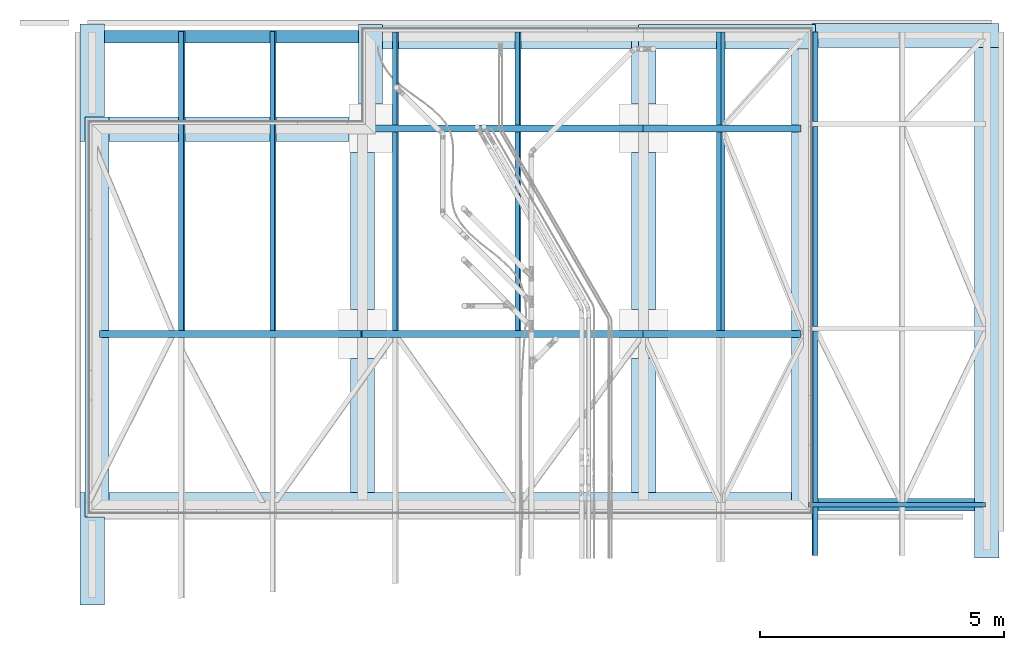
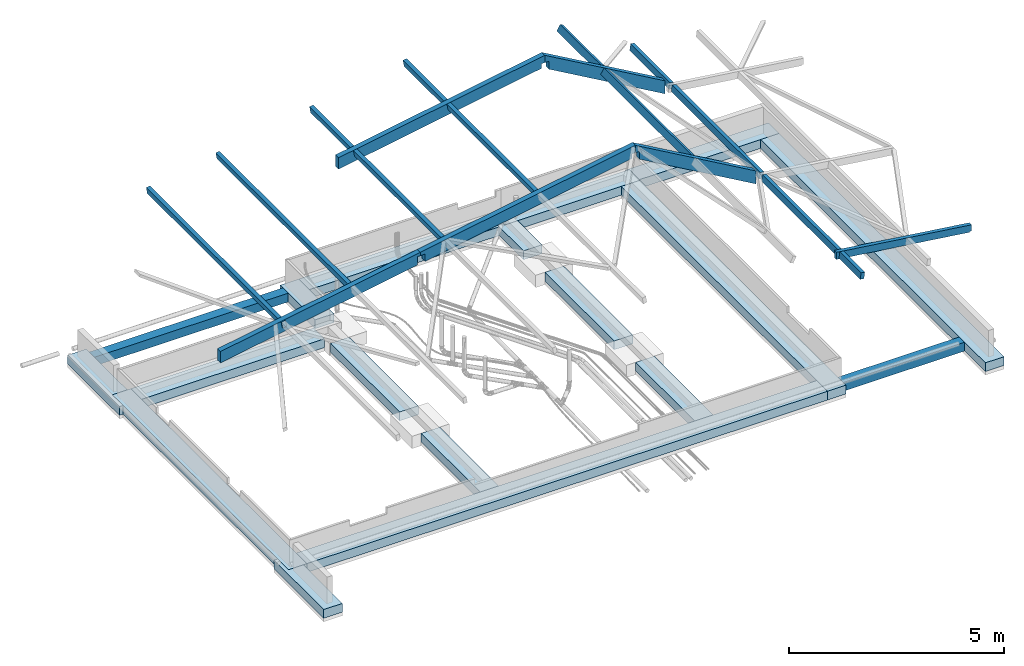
# One storey, part 1 of 18: 13 footings, 10 beams, 9 members.
"""IFC4 building model written with IfcOpenShell, lengths in centimetres."""

from ifc_helpers import new_model, entity, si_unit, converted_unit, derived_unit, direction, frame, origin, place, context, subcontext, project, spatial, indexed_curve, outline, extrude, source, transform, mapped, material, type_object, type_shapes, element, save


model = new_model("IFC4")

# Units and contexts
model_context = context("Model", 3, precision=0.001, world=origin(), true_north=direction((6.123233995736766e-17, 1.0)))
body_context = subcontext(model_context, "Body", "Model", "MODEL_VIEW")
ifc_project = project(units=[si_unit("LENGTHUNIT", "METRE", prefix="CENTI"), si_unit("AREAUNIT", "SQUARE_METRE"), converted_unit("PLANEANGLEUNIT", "DEGREE", entity("IfcPlaneAngleMeasure", 0.017453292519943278), si_unit("PLANEANGLEUNIT", "RADIAN"), dimensions=[0, 0, 0, 0, 0, 0, 0]), si_unit("VOLUMEUNIT", "CUBIC_METRE"), derived_unit("THERMALTRANSMITTANCEUNIT", [(si_unit("MASSUNIT", "GRAM", prefix="KILO"), 1), (si_unit("THERMODYNAMICTEMPERATUREUNIT", "KELVIN"), -1), (si_unit("TIMEUNIT", "SECOND"), -3)])], contexts=[model_context])

# Site, building, storey
site_placement = place(None, frame((-0.003347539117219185, 0.0, 0.0)))
site = spatial("IfcSite", under=ifc_project, at=site_placement, Name="Default", CompositionType="ELEMENT")
building_placement = place(site_placement, origin())
building = spatial("IfcBuilding", under=site, at=building_placement, CompositionType="ELEMENT")
storey_placement = place(building_placement, frame((0.0, 0.0, -30.0)))
storey = spatial("IfcBuildingStorey", under=building, at=storey_placement, Name="Fondation B.O.", CompositionType="ELEMENT", Elevation=-30.0)

# Footings
ifc_material_1 = material(Name="Béton C20/25")
footing_type_1 = type_object("IfcFootingType", Name="Semelle filante:SF 50x25 ht. 2", PredefinedType="STRIP_FOOTING")
footing_1_placement = place(storey_placement, origin())
element("IfcFooting", 1, at=footing_1_placement, inside=storey, type_object=footing_type_1, material=ifc_material_1, Name="Semelle filante:SF 50x25 ht. 2", ObjectType="Semelle filante:SF 50x25 ht. 2", PredefinedType="STRIP_FOOTING", context=body_context, shape_type="SweptSolid", body=[
    extrude(outline(indexed_curve([(-410.0000000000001, -28.099999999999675), (-360.0, -28.099999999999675), (360.00000000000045, -28.10000000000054), (410.00000000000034, -28.10000000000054), (410.00000000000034, 12.400000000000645), (410.00000000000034, 21.899999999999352), (360.00000000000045, 21.899999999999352), (-360.0, 21.90000000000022), (-409.9999999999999, 21.90000000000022), (-409.9999999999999, 12.400000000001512), (-410.0000000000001, -28.099999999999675)], self_intersect=False)), frame((-6775.486652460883, -2277.8758849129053, -25.0), z_axis=(0.0, 0.0, 1.0), x_axis=(0.0, -1.0, 0.0)), (0.0, 0.0, 1.0), 25.0),
])
footing_2_placement = place(storey_placement, origin())
element("IfcFooting", 2, at=footing_2_placement, inside=storey, type_object=footing_type_1, material=ifc_material_1, Name="Semelle filante:SF 50x25 ht. 2", ObjectType="Semelle filante:SF 50x25 ht. 2", PredefinedType="STRIP_FOOTING", context=body_context, shape_type="SweptSolid", body=[
    extrude(outline(indexed_curve([(-246.0000000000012, -24.999999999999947), (246.0000000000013, -24.999999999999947), (246.0000000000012, 25.000000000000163), (-246.0000000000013, 25.000000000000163), (-246.0000000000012, -24.999999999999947)], self_intersect=False)), frame((-6507.586652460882, -1892.875884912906, -25.0)), (0.0, 0.0, 1.0), 25.0),
])
footing_3_placement = place(storey_placement, origin())
element("IfcFooting", 3, at=footing_3_placement, inside=storey, type_object=footing_type_1, material=ifc_material_1, Name="Semelle filante:SF 50x25 ht. 2", ObjectType="Semelle filante:SF 50x25 ht. 2", PredefinedType="STRIP_FOOTING", context=body_context, shape_type="SweptSolid", body=[
    extrude(outline(indexed_curve([(-163.88888888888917, -29.888888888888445), (-155.88888888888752, -29.888888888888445), (199.1111111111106, -29.88888888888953), (199.1111111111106, -8.388888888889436), (199.1111111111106, 20.11111111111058), (164.11111111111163, 20.11111111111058), (-113.88888888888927, 20.11111111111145), (-163.88888888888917, 20.111111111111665), (-163.88888888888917, 17.611111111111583), (-163.88888888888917, -29.888888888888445)], self_intersect=False)), frame((-5468.47554134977, -1707.7647738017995, -25.0), z_axis=(0.0, 0.0, 1.0), x_axis=(-1.0, 0.0, 0.0)), (0.0, 0.0, 1.0), 25.0),
])
footing_4_placement = place(storey_placement, origin())
element("IfcFooting", 4, at=footing_4_placement, inside=storey, type_object=footing_type_1, material=ifc_material_1, Name="Semelle filante:SF 50x25 ht. 2", ObjectType="Semelle filante:SF 50x25 ht. 2", PredefinedType="STRIP_FOOTING", context=body_context, shape_type="SweptSolid", body=[
    extrude(outline(indexed_curve([(-60.857142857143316, -21.428571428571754), (-48.357142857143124, -21.428571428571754), (-23.357142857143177, -21.428571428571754), (102.14285714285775, -21.428571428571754), (102.14285714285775, 28.57142857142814), (-10.857142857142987, 28.57142857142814), (-60.857142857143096, 28.57142857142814), (-60.857142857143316, -21.428571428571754)], self_intersect=False)), frame((-6221.158081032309, -1738.7330277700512, -25.0), z_axis=(0.0, 0.0, 1.0), x_axis=(0.0, -1.0, 0.0)), (0.0, 0.0, 1.0), 25.0),
])
footing_5_placement = place(storey_placement, origin())
element("IfcFooting", 5, at=footing_5_placement, inside=storey, type_object=footing_type_1, material=ifc_material_1, Name="Semelle filante:SF 50x25 ht. 2", ObjectType="Semelle filante:SF 50x25 ht. 2", PredefinedType="STRIP_FOOTING", context=body_context, shape_type="SweptSolid", body=[
    extrude(outline(indexed_curve([(-288.5714285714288, -21.42857142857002), (-276.0714285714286, -21.42857142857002), (-251.07142857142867, -21.42857142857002), (671.4285714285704, -21.428571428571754), (671.4285714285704, 28.57142857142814), (-238.5714285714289, 28.571428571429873), (-288.5714285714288, 28.571428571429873), (-288.5714285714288, -21.42857142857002)], self_intersect=False)), frame((-5326.0152238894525, -2399.3044563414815, -25.0), z_axis=(0.0, 0.0, 1.0), x_axis=(0.0, 1.0, 0.0)), (0.0, 0.0, 1.0), 25.0),
])
footing_6_placement = place(storey_placement, origin())
element("IfcFooting", 6, at=footing_6_placement, inside=storey, type_object=footing_type_1, material=ifc_material_1, Name="Semelle filante:SF 50x25 ht. 2", ObjectType="Semelle filante:SF 50x25 ht. 2", PredefinedType="STRIP_FOOTING", context=body_context, shape_type="SweptSolid", body=[
    extrude(outline(indexed_curve([(-753.6249999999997, -37.5000000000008), (645.3750000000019, -37.49999999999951), (645.3750000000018, 12.500000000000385), (367.3750000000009, 12.500000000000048), (317.37500000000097, 12.500000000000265), (-209.12500000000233, 12.499999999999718), (-259.1250000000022, 12.4999999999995), (-753.6249999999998, 12.499999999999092), (-753.6249999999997, -37.5000000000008)], self_intersect=False)), frame((-5999.961652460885, -2650.375884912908, -25.0)), (0.0, 0.0, 1.0), 25.0),
])
footing_7_placement = place(storey_placement, origin())
element("IfcFooting", 7, at=footing_7_placement, inside=storey, type_object=footing_type_1, material=ifc_material_1, Name="Semelle filante:SF 50x25 ht. 2", ObjectType="Semelle filante:SF 50x25 ht. 2", PredefinedType="STRIP_FOOTING", context=body_context, shape_type="SweptSolid", body=[
    extrude(outline(indexed_curve([(-345.0000000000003, -26.166666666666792), (164.99999999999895, -26.16666666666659), (164.99999999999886, 2.333333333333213), (179.9999999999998, 2.3333333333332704), (179.99999999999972, 23.833333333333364), (-345.00000000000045, 23.833333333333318), (-345.0000000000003, -26.166666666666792)], self_intersect=False)), frame((-5847.58665246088, -1701.7092182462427, -25.0)), (0.0, 0.0, 1.0), 25.0),
])
footing_type_2 = type_object("IfcFootingType", Name="Semelle filante:SF 50x25 ht.", PredefinedType="STRIP_FOOTING")
footing_8_placement = place(storey_placement, origin())
element("IfcFooting", 8, at=footing_8_placement, inside=storey, type_object=footing_type_2, material=ifc_material_1, Name="Semelle filante:SF 50x25 ht.", ObjectType="Semelle filante:SF 50x25 ht.", PredefinedType="STRIP_FOOTING", context=body_context, shape_type="SweptSolid", body=[
    extrude(outline(indexed_curve([(-160.99999999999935, -25.00000000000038), (160.99999999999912, -25.00000000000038), (160.99999999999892, 24.999999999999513), (-160.99999999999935, 24.999999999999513), (-160.99999999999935, -25.00000000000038)], self_intersect=False)), frame((-6234.086652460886, -2101.875884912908, -25.0), z_axis=(0.0, 0.0, 1.0), x_axis=(0.0, 1.0, 0.0)), (0.0, 0.0, 1.0), 25.0),
    extrude(outline(indexed_curve([(-137.49999999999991, -25.00000000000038), (137.49999999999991, -25.00000000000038), (137.49999999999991, 24.999999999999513), (-137.49999999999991, 24.999999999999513), (-137.49999999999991, -25.00000000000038)], self_intersect=False)), frame((-6234.086652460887, -2500.3758849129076, -25.0), z_axis=(0.0, 0.0, 1.0), x_axis=(0.0, 1.0, 0.0)), (0.0, 0.0, 1.0), 25.0),
])
footing_9_placement = place(storey_placement, origin())
element("IfcFooting", 9, at=footing_9_placement, inside=storey, type_object=footing_type_2, material=ifc_material_1, Name="Semelle filante:SF 50x25 ht.", ObjectType="Semelle filante:SF 50x25 ht.", PredefinedType="STRIP_FOOTING", context=body_context, shape_type="SweptSolid", body=[
    extrude(outline(indexed_curve([(-137.49999999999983, -24.999999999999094), (137.5, -24.999999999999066), (137.49999999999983, 25.000000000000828), (-137.5, 25.0000000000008), (-137.49999999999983, -24.999999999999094)], self_intersect=False)), frame((-5657.586652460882, -2500.375884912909, -25.0), z_axis=(0.0, 0.0, 1.0), x_axis=(0.0, 1.0, 0.0)), (0.0, 0.0, 1.0), 25.0),
    extrude(outline(indexed_curve([(-161.00000000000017, -24.99999999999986), (161.00000000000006, -25.000000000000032), (160.99999999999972, 24.99999999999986), (-161.00000000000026, 25.000000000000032), (-161.00000000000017, -24.99999999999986)], self_intersect=False)), frame((-5657.586652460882, -2101.875884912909, -25.0), z_axis=(0.0, 0.0, 1.0), x_axis=(0.0, 1.0, 0.0)), (0.0, 0.0, 1.0), 25.0),
    extrude(outline(indexed_curve([(-88.85714285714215, -31.428571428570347), (24.142857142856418, -31.428571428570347), (24.142857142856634, 3.571428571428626), (52.642857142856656, 3.571428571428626), (52.642857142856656, 18.571428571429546), (24.14285714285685, 18.571428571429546), (-88.85714285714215, 18.571428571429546), (-88.85714285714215, -31.428571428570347)], self_intersect=False)), frame((-5664.015223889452, -1752.0187420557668, -25.0), z_axis=(0.0, 0.0, 1.0), x_axis=(0.0, 1.0, 0.0)), (0.0, 0.0, 1.0), 25.0),
])
footing_10_placement = place(storey_placement, origin())
element("IfcFooting", 10, at=footing_10_placement, inside=storey, type_object=footing_type_2, material=ifc_material_1, Name="Semelle filante:SF 50x25 ht.", ObjectType="Semelle filante:SF 50x25 ht.", PredefinedType="STRIP_FOOTING", context=body_context, shape_type="SweptSolid", body=[
    extrude(outline(indexed_curve([(-224.28571428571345, -22.142857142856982), (159.71428571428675, -22.142857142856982), (159.71428571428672, -19.6428571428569), (151.71428571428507, -19.642857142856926), (151.71428571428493, 27.857142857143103), (-174.28571428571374, 27.85714285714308), (-224.28571428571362, 27.857142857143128), (-224.28571428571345, -22.142857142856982)], self_intersect=False)), frame((-5152.872366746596, -1697.5187420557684, -25.0), z_axis=(0.0, 0.0, 1.0), x_axis=(-1.0, 0.0, 0.0)), (0.0, 0.0, 1.0), 25.0),
])
footing_11_placement = place(storey_placement, origin())
element("IfcFooting", 11, at=footing_11_placement, inside=storey, type_object=footing_type_2, material=ifc_material_1, Name="Semelle filante:SF 50x25 ht.", ObjectType="Semelle filante:SF 50x25 ht.", PredefinedType="STRIP_FOOTING", context=body_context, shape_type="SweptSolid", body=[
    extrude(outline(indexed_curve([(-385.1666666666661, -33.333333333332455), (661.3333333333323, -33.333333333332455), (661.3333333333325, 16.66666666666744), (-263.66666666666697, 16.666666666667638), (-288.66666666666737, 16.6666666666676), (-385.16666666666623, 16.66666666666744), (-385.1666666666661, -33.333333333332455)], self_intersect=False)), frame((-4961.919985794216, -2386.7092182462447, -25.0), z_axis=(0.0, 0.0, 1.0), x_axis=(0.0, 1.0, 0.0)), (0.0, 0.0, 1.0), 25.0),
])
footing_12_placement = place(storey_placement, origin())
element("IfcFooting", 12, at=footing_12_placement, inside=storey, type_object=footing_type_2, material=ifc_material_1, Name="Semelle filante:SF 50x25 ht.", ObjectType="Semelle filante:SF 50x25 ht.", PredefinedType="STRIP_FOOTING", context=body_context, shape_type="SweptSolid", body=[
    extrude(outline(indexed_curve([(-114.49999999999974, -27.375000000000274), (126.49999999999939, -27.375000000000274), (126.49999999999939, -17.875000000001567), (76.49999999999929, -17.875000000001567), (76.49999999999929, 22.62499999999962), (-75.99999999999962, 22.62499999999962), (-100.99999999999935, 22.62499999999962), (-114.49999999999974, 22.62499999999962), (-114.49999999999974, -27.375000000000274)], self_intersect=False)), frame((-6785.711652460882, -1791.3758849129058, -25.0), z_axis=(0.0, 0.0, 1.0), x_axis=(0.0, -1.0, 0.0)), (0.0, 0.0, 1.0), 25.0),
])
footing_13_placement = place(storey_placement, origin())
element("IfcFooting", 13, at=footing_13_placement, inside=storey, type_object=footing_type_2, material=ifc_material_1, Name="Semelle filante:SF 50x25 ht.", ObjectType="Semelle filante:SF 50x25 ht.", PredefinedType="STRIP_FOOTING", context=body_context, shape_type="SweptSolid", body=[
    extrude(outline(indexed_curve([(-137.33333333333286, -30.16666666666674), (43.66666666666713, -30.16666666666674), (43.66666666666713, 10.33333333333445), (93.66666666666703, 10.33333333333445), (93.66666666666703, 19.833333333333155), (-137.33333333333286, 19.833333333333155), (-137.33333333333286, -30.16666666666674)], self_intersect=False)), frame((-6793.25331912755, -2731.542551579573, -25.0), z_axis=(0.0, 0.0, 1.0), x_axis=(0.0, 1.0, 0.0)), (0.0, 0.0, 1.0), 25.0),
])

# Beams
beam_type_1 = type_object("IfcBeamType", Name="Poutre rectangulaire - Béton:25x25 ht.", PredefinedType="BEAM", material=ifc_material_1)
shared_shape_1 = source(origin(), body_context, "Body", "SweptSolid", [
    extrude(outline(indexed_curve([(-12.5, -12.499999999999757), (12.499999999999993, -12.499999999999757), (12.499999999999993, 12.50000000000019), (-12.5, 12.50000000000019), (-12.5, -12.499999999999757)], self_intersect=False)), frame((-5304.586652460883, -2662.8758849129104, -42.50000000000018), z_axis=(1.0, 0.0, 0.0), x_axis=(0.0, 0.0, -1.0)), (0.0, 0.0, 1.0), 325.99999999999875),
])
type_shapes(beam_type_1, [shared_shape_1])
beam_1_placement = place(storey_placement, frame((0.0, 0.0, 30.0)))
element("IfcBeam", 14, at=beam_1_placement, inside=storey, type_object=beam_type_1, material=ifc_material_1, Name="Poutre rectangulaire - Béton:25x25 ht.", ObjectType="Poutre rectangulaire - Béton:25x25 ht.", PredefinedType="BEAM", context=body_context, shape_type="MappedRepresentation", body=[
    mapped(shared_shape_1, transform((0.0, 0.0, 0.0), scale=1.0)),
])
beam_type_2 = type_object("IfcBeamType", Name="Poutre rectangulaire - Béton:25x25 ht.", PredefinedType="BEAM", material=ifc_material_1)
shared_shape_2 = source(origin(), body_context, "Body", "SweptSolid", [
    extrude(outline(indexed_curve([(-12.5, -12.50000000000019), (12.499999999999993, -12.499999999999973), (12.5, 12.499999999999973), (-12.5, 12.50000000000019), (-12.5, -12.50000000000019)], self_intersect=False)), frame((-6763.086652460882, -1702.8758849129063, -42.50000000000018), z_axis=(1.0, 0.0, 0.0), x_axis=(0.0, 0.0, -1.0)), (0.0, 0.0, 1.0), 520.5000000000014),
])
type_shapes(beam_type_2, [shared_shape_2])
beam_2_placement = place(storey_placement, frame((0.0, 0.0, 30.0)))
element("IfcBeam", 15, at=beam_2_placement, inside=storey, type_object=beam_type_2, material=ifc_material_1, Name="Poutre rectangulaire - Béton:25x25 ht.", ObjectType="Poutre rectangulaire - Béton:25x25 ht.", PredefinedType="BEAM", context=body_context, shape_type="MappedRepresentation", body=[
    mapped(shared_shape_2, transform((0.0, 0.0, 0.0), scale=1.0)),
])
ifc_material_2 = material(Name="BLC - GL24h", Category="Bois")
beam_type_3 = type_object("IfcBeamType", Name="Poutre - Lamellé-collé:14x32", PredefinedType="BEAM", material=ifc_material_2)
shared_shape_3 = source(origin(), body_context, "Body", "SweptSolid", [
    extrude(outline(indexed_curve([(-50.457716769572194, -187.8544539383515), (-29.543087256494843, -187.8544539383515), (-29.543087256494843, -178.57277303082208), (-16.342901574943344, -178.57277303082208), (79.1873350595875, 366.42722696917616), (46.69945779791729, 366.42722696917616), (-50.457716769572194, -187.8544539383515)], self_intersect=False)), frame((-5846.1594254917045, -1897.8758849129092, 501.45691274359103), z_axis=(0.0, 1.0, 0.0), x_axis=(0.0, 0.0, -1.0)), (0.0, 0.0, 1.0), 14.000000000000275),
])
type_shapes(beam_type_3, [shared_shape_3])
beam_3_placement = place(storey_placement, frame((0.0, 0.0, 30.0)))
element("IfcBeam", 16, at=beam_3_placement, inside=storey, type_object=beam_type_3, material=ifc_material_2, Name="Poutre - Lamellé-collé:14x32", ObjectType="Poutre - Lamellé-collé:14x32", PredefinedType="BEAM", context=body_context, shape_type="MappedRepresentation", body=[
    mapped(shared_shape_3, transform((0.0, 0.0, 0.0), scale=1.0)),
])
beam_type_4 = type_object("IfcBeamType", Name="Poutre - Lamellé-collé:14x32", PredefinedType="BEAM", material=ifc_material_2)
shared_shape_4 = source(origin(), body_context, "Body", "SweptSolid", [
    extrude(outline(indexed_curve([(83.7398970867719, -181.9547868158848), (120.07675267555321, -181.9547868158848), (120.50630565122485, -181.70791728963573), (-59.23687278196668, 131.04521318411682), (-81.39048437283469, 131.04521318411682), (-81.39048437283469, 141.76353227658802), (-102.305113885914, 141.76353227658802), (83.7398970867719, -181.9547868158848)], self_intersect=False)), frame((-5516.541439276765, -1897.8758849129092, 449.6095156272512), z_axis=(0.0, 1.0, 0.0), x_axis=(0.0, 0.0, -1.0)), (0.0, 0.0, 1.0), 14.000000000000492),
])
type_shapes(beam_type_4, [shared_shape_4])
beam_4_placement = place(storey_placement, frame((0.0, 0.0, 30.0)))
element("IfcBeam", 17, at=beam_4_placement, inside=storey, type_object=beam_type_4, material=ifc_material_2, Name="Poutre - Lamellé-collé:14x32", ObjectType="Poutre - Lamellé-collé:14x32", PredefinedType="BEAM", context=body_context, shape_type="MappedRepresentation", body=[
    mapped(shared_shape_4, transform((0.0, 0.0, 0.0), scale=1.0)),
])
beam_type_5 = type_object("IfcBeamType", Name="Poutre - Lamellé-collé:14x32", PredefinedType="BEAM", material=ifc_material_2)
shared_shape_5 = source(origin(), body_context, "Body", "SweptSolid", [
    extrude(outline(indexed_curve([(-256.1716667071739, -38.09547538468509), (-256.1716667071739, -58.76667609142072), (-256.1302692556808, -59.00284855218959), (322.35012361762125, 42.39599331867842), (320.6834222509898, 51.90452461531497), (309.6100142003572, 51.90452461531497), (309.6100142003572, 72.65072256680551), (-246.88998579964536, -24.895289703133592), (-246.88998579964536, -38.09547538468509), (-256.1716667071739, -38.09547538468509)], self_intersect=False)), frame((-5914.4766382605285, -2319.8758849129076, 492.9045246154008), z_axis=(0.0, -1.0, 0.0), x_axis=(-1.0, 0.0, 0.0)), (0.0, 0.0, -1.0), 13.999999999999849),
])
type_shapes(beam_type_5, [shared_shape_5])
beam_5_placement = place(storey_placement, frame((0.0, 0.0, 30.0)))
element("IfcBeam", 18, at=beam_5_placement, inside=storey, type_object=beam_type_5, material=ifc_material_2, Name="Poutre - Lamellé-collé:14x32", ObjectType="Poutre - Lamellé-collé:14x32", PredefinedType="BEAM", context=body_context, shape_type="MappedRepresentation", body=[
    mapped(shared_shape_5, transform((0.0, 0.0, 0.0), scale=1.0)),
])
beam_type_6 = type_object("IfcBeamType", Name="Poutre - Lamellé-collé:14x32", PredefinedType="BEAM", material=ifc_material_2)
shared_shape_6 = source(origin(), body_context, "Body", "SweptSolid", [
    extrude(outline(indexed_curve([(83.73136482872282, -181.9518338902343), (120.11606663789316, -181.9518338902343), (120.50965297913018, -181.72563484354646), (-59.245405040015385, 131.04816610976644), (-81.39901663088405, 131.04816610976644), (-81.39901663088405, 141.7664852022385), (-102.31364614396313, 141.7664852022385), (83.73136482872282, -181.9518338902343)], self_intersect=False)), frame((-5516.538486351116, -2319.8758849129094, 449.60098336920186), z_axis=(0.0, 1.0, 0.0), x_axis=(0.0, 0.0, -1.0)), (0.0, 0.0, 1.0), 14.000000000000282),
])
type_shapes(beam_type_6, [shared_shape_6])
beam_6_placement = place(storey_placement, frame((0.0, 0.0, 30.0)))
element("IfcBeam", 19, at=beam_6_placement, inside=storey, type_object=beam_type_6, material=ifc_material_2, Name="Poutre - Lamellé-collé:14x32", ObjectType="Poutre - Lamellé-collé:14x32", PredefinedType="BEAM", context=body_context, shape_type="MappedRepresentation", body=[
    mapped(shared_shape_6, transform((0.0, 0.0, 0.0), scale=1.0)),
])
beam_type_7 = type_object("IfcBeamType", Name="Poutre - Lamellé-collé:14x32", PredefinedType="BEAM", material=ifc_material_2)
shared_shape_7 = source(origin(), body_context, "Body", "SweptSolid", [
    extrude(outline(indexed_curve([(-13.625650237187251, -186.1661061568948), (-3.9840498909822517, -186.1661061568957), (-5.513349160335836, -177.44145382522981), (18.374349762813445, -173.25430239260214), (18.37434976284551, 364.3185416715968), (-13.625650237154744, 358.7094268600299), (-13.625650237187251, -186.1661061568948)], self_intersect=False)), frame((-6417.911537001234, -2319.8758849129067, 404.9337267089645), z_axis=(0.0, 1.0, 0.0), x_axis=(0.1726525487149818, 0.0, -0.9849827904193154)), (0.0, 0.0, 1.0), 14.000000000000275),
])
type_shapes(beam_type_7, [shared_shape_7])
beam_7_placement = place(storey_placement, frame((0.0, 0.0, 30.0)))
element("IfcBeam", 20, at=beam_7_placement, inside=storey, type_object=beam_type_7, material=ifc_material_2, Name="Poutre - Lamellé-collé:14x32", ObjectType="Poutre - Lamellé-collé:14x32", PredefinedType="BEAM", context=body_context, shape_type="MappedRepresentation", body=[
    mapped(shared_shape_7, transform((0.0, 0.0, 0.0), scale=1.0)),
])
beam_type_8 = type_object("IfcBeamType", Name="Poutre - Lamellé-collé:10x18", PredefinedType="BEAM", material=ifc_material_2)
shared_shape_8 = source(origin(), body_context, "Body", "SweptSolid", [
    extrude(outline(indexed_curve([(-203.97677125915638, -5.000000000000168), (203.97677125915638, -5.000000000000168), (203.97677125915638, 5.000000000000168), (-203.97677125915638, 5.000000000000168), (-203.97677125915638, -5.000000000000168)], self_intersect=False)), frame((0.023228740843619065, 0.0, -9.0), z_axis=(0.0, 0.0, 1.0), x_axis=(-1.0, 0.0, 0.0)), (0.0, 0.0, 1.0), 17.999999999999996),
])
type_shapes(beam_type_8, [shared_shape_8])
beam_8_placement = place(storey_placement, frame((-5499.468786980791, -2101.8758849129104, 480.24901007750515), z_axis=(0.49828387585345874, 0.0, 0.8670139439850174), x_axis=(0.0, -1.0, 0.0)))
element("IfcBeam", 21, at=beam_8_placement, inside=storey, type_object=beam_type_8, material=ifc_material_2, Name="Poutre - Lamellé-collé:10x18", ObjectType="Poutre - Lamellé-collé:10x18", PredefinedType="BEAM", context=body_context, shape_type="MappedRepresentation", body=[
    mapped(shared_shape_8, transform((0.0, 0.0, 0.0), scale=1.0)),
])
beam_type_9 = type_object("IfcBeamType", Name="Poutre - Lamellé-collé:10x18", PredefinedType="BEAM", material=ifc_material_2)
shared_shape_9 = source(origin(), body_context, "Body", "SweptSolid", [
    extrude(outline(indexed_curve([(-95.29999999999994, -5.000000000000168), (95.29999999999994, -5.000000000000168), (95.29999999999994, 5.000000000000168), (-95.29999999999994, 5.000000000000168), (-95.29999999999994, -5.000000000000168)], self_intersect=False)), frame((-6.699999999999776, 0.0, -9.0), z_axis=(0.0, 0.0, 1.0), x_axis=(-1.0, 0.0, 0.0)), (0.0, 0.0, 1.0), 17.999999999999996),
])
type_shapes(beam_type_9, [shared_shape_9])
beam_9_placement = place(storey_placement, frame((-5499.468786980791, -1795.4508849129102, 480.2490100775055), z_axis=(0.49828387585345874, 0.0, 0.8670139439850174), x_axis=(0.0, -1.0, 0.0)))
element("IfcBeam", 22, at=beam_9_placement, inside=storey, type_object=beam_type_9, material=ifc_material_2, Name="Poutre - Lamellé-collé:10x18", ObjectType="Poutre - Lamellé-collé:10x18", PredefinedType="BEAM", context=body_context, shape_type="MappedRepresentation", body=[
    mapped(shared_shape_9, transform((0.0, 0.0, 0.0), scale=1.0)),
])

# Members
member_type_1 = type_object("IfcMemberType", Name="Poutre - Lamellé-collé:10x18", PredefinedType="PURLIN", material=ifc_material_2)
shared_shape_10 = source(origin(), body_context, "Body", "SweptSolid", [
    extrude(outline(indexed_curve([(-204.0, -5.000000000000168), (204.0, -5.000000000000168), (204.0, 5.000000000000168), (-204.0, 5.000000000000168), (-204.0, -5.000000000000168)], self_intersect=False)), frame((0.0, 0.0, -9.0), z_axis=(0.0, 0.0, 1.0), x_axis=(-1.0, 0.0, 0.0)), (0.0, 0.0, 1.0), 17.999999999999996),
])
type_shapes(member_type_1, [shared_shape_10])
for number, where, z_axis, x_axis, name in (
    (23, (-5915.169949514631, -2101.875884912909, 527.7528780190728), (-0.17265254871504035, 0.0, 0.9849827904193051), (0.0, 1.0, 0.0), "Poutre - Lamellé-collé:10x18"),
    (24, (-6166.340561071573, -2101.875884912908, 483.7264780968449), (-0.17265254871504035, 0.0, 0.9849827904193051), (0.0, 1.0, 0.0), "Poutre - Lamellé-collé:10x18"),
):
    element("IfcMember", number, at=place(storey_placement, frame(where, z_axis=z_axis, x_axis=x_axis)), inside=storey, type_object=member_type_1, material=ifc_material_2, Name=name, ObjectType="Poutre - Lamellé-collé:10x18", PredefinedType="PURLIN", context=body_context, shape_type="MappedRepresentation", body=[
        mapped(shared_shape_10, transform((0.0, 0.0, 0.0), scale=1.0)),
    ])
member_type_2 = type_object("IfcMemberType", Name="Poutre - Lamellé-collé:10x18", PredefinedType="PURLIN", material=ifc_material_2)
shared_shape_11 = source(origin(), body_context, "Body", "SweptSolid", [
    extrude(outline(indexed_curve([(-315.6967888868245, -5.000000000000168), (315.6967888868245, -5.000000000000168), (315.6967888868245, 5.000000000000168), (-315.6967888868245, 5.000000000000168), (-315.6967888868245, -5.000000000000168)], self_intersect=False)), frame((-5.346788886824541, 0.0, -9.0), z_axis=(0.0, 0.0, 1.0), x_axis=(-1.0, 0.0, 0.0)), (0.0, 0.0, 1.0), 17.999999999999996),
])
type_shapes(member_type_2, [shared_shape_11])
member_1_placement = place(storey_placement, frame((-6604.657902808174, -2002.5258849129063, 406.8960939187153), z_axis=(-0.17265254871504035, 0.0, 0.9849827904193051), x_axis=(0.0, 1.0, 0.0)))
element("IfcMember", 25, at=member_1_placement, inside=storey, type_object=member_type_2, material=ifc_material_2, Name="Poutre - Lamellé-collé:10x18", ObjectType="Poutre - Lamellé-collé:10x18", PredefinedType="PURLIN", context=body_context, shape_type="MappedRepresentation", body=[
    mapped(shared_shape_11, transform((0.0, 0.0, 0.0), scale=1.0)),
])
member_type_3 = type_object("IfcMemberType", Name="Poutre - Lamellé-collé:10x18", PredefinedType="PURLIN", material=ifc_material_2)
shared_shape_12 = source(origin(), body_context, "Body", "SweptSolid", [
    extrude(outline(indexed_curve([(-95.20000000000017, -5.000000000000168), (95.20000000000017, -5.000000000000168), (95.20000000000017, 5.000000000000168), (-95.20000000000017, 5.000000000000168), (-95.20000000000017, -5.000000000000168)], self_intersect=False)), frame((6.8000000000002, 0.0, -9.0), z_axis=(0.0, 0.0, 1.0), x_axis=(-1.0, 0.0, 0.0)), (0.0, 0.0, 1.0), 17.999999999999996),
])
type_shapes(member_type_3, [shared_shape_12])
for number, where, z_axis, x_axis, name in (
    (26, (-6166.334437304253, -1795.4508849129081, 483.7275515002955), (-0.17265254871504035, 0.0, 0.9849827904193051), (0.0, 1.0, 0.0), "Poutre - Lamellé-collé:10x18"),
    (27, (-5915.191647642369, -1795.450884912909, 527.7490746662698), (-0.17265254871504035, 0.0, 0.9849827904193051), (0.0, 1.0, 0.0), "Poutre - Lamellé-collé:10x18"),
):
    element("IfcMember", number, at=place(storey_placement, frame(where, z_axis=z_axis, x_axis=x_axis)), inside=storey, type_object=member_type_3, material=ifc_material_2, Name=name, ObjectType="Poutre - Lamellé-collé:10x18", PredefinedType="PURLIN", context=body_context, shape_type="MappedRepresentation", body=[
        mapped(shared_shape_12, transform((0.0, 0.0, 0.0), scale=1.0)),
    ])
member_type_4 = type_object("IfcMemberType", Name="Poutre - Lamellé-collé:10x18", PredefinedType="PURLIN", material=ifc_material_2)
shared_shape_13 = source(origin(), body_context, "Body", "SweptSolid", [
    extrude(outline(indexed_curve([(-306.84999999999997, -5.000000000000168), (306.84999999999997, -5.000000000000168), (306.84999999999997, 5.000000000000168), (-306.84999999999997, 5.000000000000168), (-306.84999999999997, -5.000000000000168)], self_intersect=False)), frame((3.4999999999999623, 0.0, -9.0), z_axis=(0.0, 0.0, 1.0), x_axis=(-1.0, 0.0, 0.0)), (0.0, 0.0, 1.0), 17.999999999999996),
])
type_shapes(member_type_4, [shared_shape_13])
member_2_placement = place(storey_placement, frame((-6417.511172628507, -2002.5258849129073, 439.7000781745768), z_axis=(-0.17265254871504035, 0.0, 0.9849827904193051), x_axis=(0.0, 1.0, 0.0)))
element("IfcMember", 28, at=member_2_placement, inside=storey, type_object=member_type_4, material=ifc_material_2, Name="Poutre - Lamellé-collé:10x18", ObjectType="Poutre - Lamellé-collé:10x18", PredefinedType="PURLIN", context=body_context, shape_type="MappedRepresentation", body=[
    mapped(shared_shape_13, transform((0.0, 0.0, 0.0), scale=1.0)),
])

# Beam
beam_type_10 = type_object("IfcBeamType", Name="Poutre - Lamellé-collé:10x20", PredefinedType="BEAM", material=ifc_material_2)
shared_shape_14 = source(origin(), body_context, "Body", "SweptSolid", [
    extrude(outline(indexed_curve([(-243.86146280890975, -12.517621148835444), (122.187056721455, -12.517621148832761), (124.4922211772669, 4.669685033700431), (119.0410312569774, 5.400799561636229), (119.32021302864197, 7.482378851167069), (-241.1790593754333, 7.4823788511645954), (-243.86146280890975, -12.517621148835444)], self_intersect=False)), frame((-5078.853319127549, -2667.875884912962, 295.1769839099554), z_axis=(0.0, 1.0, 0.0), x_axis=(0.9911254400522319, 0.0, -0.1329299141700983)), (0.0, 0.0, 1.0), 10.000000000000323),
])
type_shapes(beam_type_10, [shared_shape_14])
beam_10_placement = place(storey_placement, frame((0.0, 0.0, 30.0)))
element("IfcBeam", 29, at=beam_10_placement, inside=storey, type_object=beam_type_10, material=ifc_material_2, Name="Poutre - Lamellé-collé:10x20", ObjectType="Poutre - Lamellé-collé:10x20", PredefinedType="BEAM", context=body_context, shape_type="MappedRepresentation", body=[
    mapped(shared_shape_14, transform((0.0, 0.0, 0.0), scale=1.0)),
])

# Members
member_type_5 = type_object("IfcMemberType", Name="Poutre - Lamellé-collé:10x18", PredefinedType="PURLIN", material=ifc_material_2)
shared_shape_15 = source(origin(), body_context, "Body", "SweptSolid", [
    extrude(outline(indexed_curve([(-91.72500000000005, -5.000000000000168), (91.72500000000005, -5.000000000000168), (91.72500000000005, 5.000000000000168), (-91.72500000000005, 5.000000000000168), (-91.72500000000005, -5.000000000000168)], self_intersect=False)), frame((-5.824999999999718, 0.0, -9.0), z_axis=(0.0, 0.0, 1.0), x_axis=(-1.0, 0.0, 0.0)), (0.0, 0.0, 1.0), 17.999999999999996),
])
type_shapes(member_type_5, [shared_shape_15])
member_3_placement = place(storey_placement, frame((-5305.997989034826, -1790.9508849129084, 359.19078404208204), z_axis=(0.13292991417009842, 0.0, 0.991125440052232), x_axis=(0.0, -1.0, 0.0)))
element("IfcMember", 30, at=member_3_placement, inside=storey, type_object=member_type_5, material=ifc_material_2, Name="Poutre - Lamellé-collé:10x18", ObjectType="Poutre - Lamellé-collé:10x18", PredefinedType="PURLIN", context=body_context, shape_type="MappedRepresentation", body=[
    mapped(shared_shape_15, transform((0.0, 0.0, 0.0), scale=1.0)),
])
member_type_6 = type_object("IfcMemberType", Name="Poutre - Lamellé-collé:10x18", PredefinedType="PURLIN", material=ifc_material_2)
shared_shape_16 = source(origin(), body_context, "Body", "SweptSolid", [
    extrude(outline(indexed_curve([(-205.00000000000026, -5.000000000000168), (205.00000000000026, -5.000000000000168), (205.00000000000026, 5.000000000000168), (-205.00000000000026, 5.000000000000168), (-205.00000000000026, -5.000000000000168)], self_intersect=False)), frame((0.0, 0.0, -9.0), z_axis=(0.0, 0.0, 1.0), x_axis=(-1.0, 0.0, 0.0)), (0.0, 0.0, 1.0), 17.999999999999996),
])
type_shapes(member_type_6, [shared_shape_16])
member_4_placement = place(storey_placement, frame((-5305.997989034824, -2091.875884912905, 359.1907840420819), z_axis=(0.13292991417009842, 0.0, 0.991125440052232), x_axis=(0.0, -1.0, 0.0)))
element("IfcMember", 31, at=member_4_placement, inside=storey, type_object=member_type_6, material=ifc_material_2, Name="Poutre - Lamellé-collé:10x18", ObjectType="Poutre - Lamellé-collé:10x18", PredefinedType="PURLIN", context=body_context, shape_type="MappedRepresentation", body=[
    mapped(shared_shape_16, transform((0.0, 0.0, 0.0), scale=1.0)),
])
member_type_7 = type_object("IfcMemberType", Name="Poutre - Lamellé-collé:10x18", PredefinedType="PURLIN", material=ifc_material_2)
shared_shape_17 = source(origin(), body_context, "Body", "SweptSolid", [
    extrude(outline(indexed_curve([(-230.00849826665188, -5.000000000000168), (230.00849826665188, -5.000000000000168), (230.00849826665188, 5.000000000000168), (-230.00849826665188, 5.000000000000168), (-230.00849826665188, -5.000000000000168)], self_intersect=False)), frame((2.5415017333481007, 0.0, -9.0), z_axis=(0.0, 0.0, 1.0), x_axis=(-1.0, 0.0, 0.0)), (0.0, 0.0, 1.0), 17.999999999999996),
])
type_shapes(member_type_7, [shared_shape_17])
member_5_placement = place(storey_placement, frame((-5305.997989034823, -2534.43422705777, 359.19078404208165), z_axis=(0.13292991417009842, 0.0, 0.991125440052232), x_axis=(0.0, -1.0, 0.0)))
element("IfcMember", 32, at=member_5_placement, inside=storey, type_object=member_type_7, material=ifc_material_2, Name="Poutre - Lamellé-collé:10x18", ObjectType="Poutre - Lamellé-collé:10x18", PredefinedType="PURLIN", context=body_context, shape_type="MappedRepresentation", body=[
    mapped(shared_shape_17, transform((0.0, 0.0, 0.0), scale=1.0)),
])

save(model, "model.ifc")
